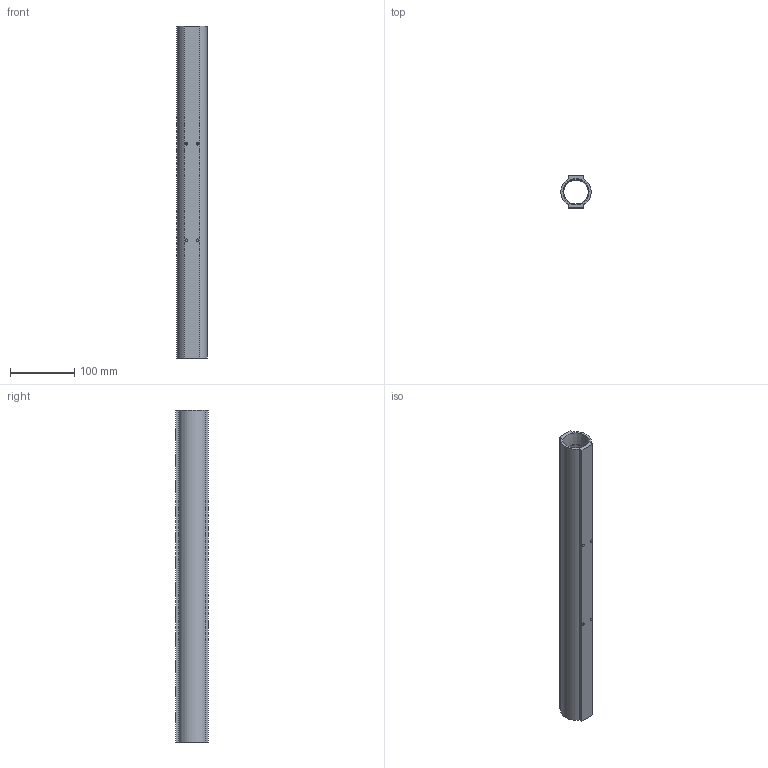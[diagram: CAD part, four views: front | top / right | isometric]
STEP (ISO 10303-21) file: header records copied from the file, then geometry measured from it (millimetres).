
FILE_DESCRIPTION (( 'STEP AP214' ), '1' );
FILE_NAME ('BWM12620R.STEP', '2022-03-15T05:41:51', ( '' ), ( '' ), 'SwSTEP 2.0', 'SolidWorks 2020', '' );
FILE_SCHEMA (( 'AUTOMOTIVE_DESIGN' ));
Length unit declared in the file: millimetre
Products named in the file (1): BWM12620R
Bounding box: 47 x 50 x 516 mm (x, y, z)
Volume: 352615.5 mm3; surface area: 147653.1 mm2
Topology: 1 solids, 1 shells, 232 faces, 628 edges, 412 vertices
Faces by surface type: plane 105, bspline 50, cylinder 41, cone 36
Entity records: 13327 total; most frequent: CARTESIAN_POINT 5855, ORIENTED_EDGE 1240, DIRECTION 836, EDGE_CURVE 620, VERTEX_POINT 412, LINE 306, VECTOR 306, EDGE_LOOP 280
